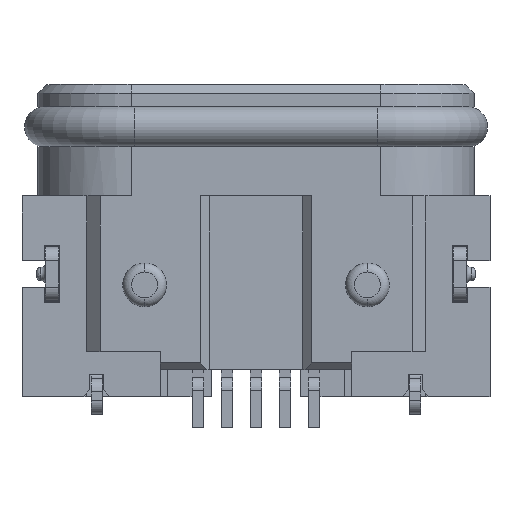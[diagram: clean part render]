
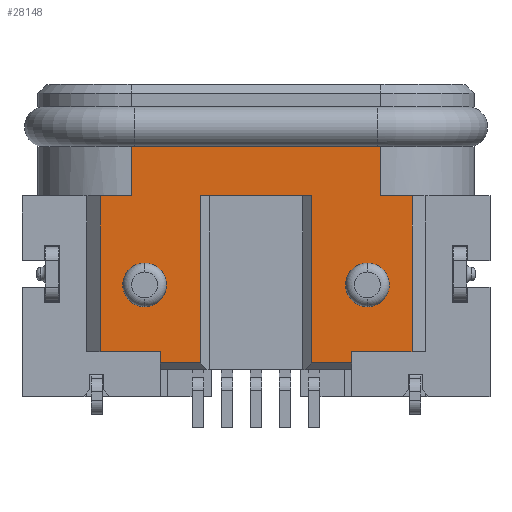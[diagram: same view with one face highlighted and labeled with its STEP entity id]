
A CAD part, top view. The second image highlights one B-rep face of the part: STEP entity #28148.
In plain terms, the highlighted planar face has unit normal (0, 0, 1).
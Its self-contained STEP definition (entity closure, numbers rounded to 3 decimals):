
#7948=DIRECTION('',(-1.,0.,0.));
#7949=VECTOR('',#7948,5.6);
#7950=CARTESIAN_POINT('',(2.575,4.69,2.435));
#7951=LINE('',#7950,#7949);
#7972=DIRECTION('',(0.,1.,0.));
#7973=VECTOR('',#7972,1.1);
#7974=CARTESIAN_POINT('',(-3.025,3.59,2.435));
#7975=LINE('',#7974,#7973);
#7976=CARTESIAN_POINT('',(2.275,1.59,2.435));
#7977=DIRECTION('',(0.,0.,1.));
#7978=DIRECTION('',(0.,-1.,0.));
#7979=AXIS2_PLACEMENT_3D('',#7976,#7977,#7978);
#7981=CARTESIAN_POINT('',(2.275,1.59,2.435));
#7982=DIRECTION('',(0.,0.,1.));
#7983=DIRECTION('',(0.,1.,0.));
#7984=AXIS2_PLACEMENT_3D('',#7981,#7982,#7983);
#7986=CARTESIAN_POINT('',(-2.725,1.59,2.435));
#7987=DIRECTION('',(0.,0.,1.));
#7988=DIRECTION('',(0.,-1.,0.));
#7989=AXIS2_PLACEMENT_3D('',#7986,#7987,#7988);
#7991=CARTESIAN_POINT('',(-2.725,1.59,2.435));
#7992=DIRECTION('',(0.,0.,1.));
#7993=DIRECTION('',(0.,1.,0.));
#7994=AXIS2_PLACEMENT_3D('',#7991,#7992,#7993);
#7996=DIRECTION('',(0.,1.,0.));
#7997=VECTOR('',#7996,1.1);
#7998=CARTESIAN_POINT('',(2.575,3.59,2.435));
#7999=LINE('',#7998,#7997);
#8448=DIRECTION('',(1.,0.,0.));
#8449=VECTOR('',#8448,1.35);
#8450=CARTESIAN_POINT('',(-3.725,0.09,
2.435));
#8451=LINE('',#8450,#8449);
#8460=DIRECTION('',(0.,-1.,0.));
#8461=VECTOR('',#8460,3.5);
#8462=CARTESIAN_POINT('',(-3.725,3.59,2.435));
#8463=LINE('',#8462,#8461);
#8473=DIRECTION('',(-1.,0.,0.));
#8474=VECTOR('',#8473,0.7);
#8475=CARTESIAN_POINT('',(-3.025,3.59,2.435));
#8476=LINE('',#8475,#8474);
#8494=DIRECTION('',(0.,-1.,0.));
#8495=VECTOR('',#8494,0.25);
#8496=CARTESIAN_POINT('',(-2.375,0.09,
2.435));
#8497=LINE('',#8496,#8495);
#8514=DIRECTION('',(0.,1.,0.));
#8515=VECTOR('',#8514,3.75);
#8516=CARTESIAN_POINT('',(-1.475,-0.16,
2.435));
#8517=LINE('',#8516,#8515);
#8518=DIRECTION('',(1.,0.,0.));
#8519=VECTOR('',#8518,2.5);
#8520=CARTESIAN_POINT('',(-1.475,3.59,2.435));
#8521=LINE('',#8520,#8519);
#8530=DIRECTION('',(0.,-1.,0.));
#8531=VECTOR('',#8530,3.75);
#8532=CARTESIAN_POINT('',(1.025,3.59,2.435));
#8533=LINE('',#8532,#8531);
#8558=DIRECTION('',(1.,0.,0.));
#8559=VECTOR('',#8558,0.9);
#8560=CARTESIAN_POINT('',(1.025,-0.16,
2.435));
#8561=LINE('',#8560,#8559);
#8562=DIRECTION('',(0.,1.,0.));
#8563=VECTOR('',#8562,0.25);
#8564=CARTESIAN_POINT('',(1.925,-0.16,
2.435));
#8565=LINE('',#8564,#8563);
#8582=DIRECTION('',(1.,0.,0.));
#8583=VECTOR('',#8582,1.35);
#8584=CARTESIAN_POINT('',(1.925,0.09,2.435));
#8585=LINE('',#8584,#8583);
#8586=DIRECTION('',(0.,1.,0.));
#8587=VECTOR('',#8586,3.5);
#8588=CARTESIAN_POINT('',(3.275,0.09,2.435));
#8589=LINE('',#8588,#8587);
#8594=DIRECTION('',(-1.,0.,0.));
#8595=VECTOR('',#8594,0.7);
#8596=CARTESIAN_POINT('',(3.275,3.59,2.435));
#8597=LINE('',#8596,#8595);
#9542=DIRECTION('',(1.,0.,0.));
#9543=VECTOR('',#9542,0.9);
#9544=CARTESIAN_POINT('',(-2.375,-0.16,
2.435));
#9545=LINE('',#9544,#9543);
#13128=CARTESIAN_POINT('',(-3.025,3.59,
2.435));
#13129=CARTESIAN_POINT('',(-3.025,4.69,
2.435));
#13130=VERTEX_POINT('',#13128);
#13131=VERTEX_POINT('',#13129);
#13136=CARTESIAN_POINT('',(1.925,0.09,
2.435));
#13137=CARTESIAN_POINT('',(3.275,0.09,
2.435));
#13138=VERTEX_POINT('',#13136);
#13139=VERTEX_POINT('',#13137);
#13140=CARTESIAN_POINT('',(1.925,-0.16,
2.435));
#13141=VERTEX_POINT('',#13140);
#13142=CARTESIAN_POINT('',(1.025,3.59,2.435));
#13143=CARTESIAN_POINT('',(1.025,-0.16,
2.435));
#13144=VERTEX_POINT('',#13142);
#13145=VERTEX_POINT('',#13143);
#13146=CARTESIAN_POINT('',(-1.475,3.59,
2.435));
#13147=VERTEX_POINT('',#13146);
#13148=CARTESIAN_POINT('',(-1.475,-0.16,
2.435));
#13149=VERTEX_POINT('',#13148);
#13150=CARTESIAN_POINT('',(-2.375,0.09,
2.435));
#13151=CARTESIAN_POINT('',(-2.375,-0.16,
2.435));
#13152=VERTEX_POINT('',#13150);
#13153=VERTEX_POINT('',#13151);
#13154=CARTESIAN_POINT('',(-3.725,0.09,
2.435));
#13155=VERTEX_POINT('',#13154);
#13156=CARTESIAN_POINT('',(2.275,1.1,2.435));
#13157=CARTESIAN_POINT('',(2.275,2.08,2.435));
#13158=VERTEX_POINT('',#13156);
#13159=VERTEX_POINT('',#13157);
#13160=CARTESIAN_POINT('',(-2.725,1.1,
2.435));
#13161=CARTESIAN_POINT('',(-2.725,2.08,
2.435));
#13162=VERTEX_POINT('',#13160);
#13163=VERTEX_POINT('',#13161);
#13164=CARTESIAN_POINT('',(2.575,3.59,2.435));
#13165=CARTESIAN_POINT('',(2.575,4.69,2.435));
#13166=VERTEX_POINT('',#13164);
#13167=VERTEX_POINT('',#13165);
#13378=CARTESIAN_POINT('',(-3.725,3.59,
2.435));
#13379=VERTEX_POINT('',#13378);
#13402=CARTESIAN_POINT('',(3.275,3.59,2.435));
#13403=VERTEX_POINT('',#13402);
#28099=CARTESIAN_POINT('',(-0.225,2.265,
2.435));
#28100=DIRECTION('',(0.,0.,1.));
#28101=DIRECTION('',(1.,0.,0.));
#28102=AXIS2_PLACEMENT_3D('',#28099,#28100,#28101);
#28103=PLANE('',#28102);
#28105=ORIENTED_EDGE('',*,*,#28104,.F.);
#28107=ORIENTED_EDGE('',*,*,#28106,.F.);
#28109=ORIENTED_EDGE('',*,*,#28108,.F.);
#28111=ORIENTED_EDGE('',*,*,#28110,.F.);
#28113=ORIENTED_EDGE('',*,*,#28112,.F.);
#28115=ORIENTED_EDGE('',*,*,#28114,.F.);
#28117=ORIENTED_EDGE('',*,*,#28116,.F.);
#28119=ORIENTED_EDGE('',*,*,#28118,.F.);
#28121=ORIENTED_EDGE('',*,*,#28120,.F.);
#28123=ORIENTED_EDGE('',*,*,#28122,.F.);
#28125=ORIENTED_EDGE('',*,*,#28124,.F.);
#28127=ORIENTED_EDGE('',*,*,#28126,.F.);
#28129=ORIENTED_EDGE('',*,*,#28128,.F.);
#28131=ORIENTED_EDGE('',*,*,#28130,.F.);
#28132=ORIENTED_EDGE('',*,*,#28081,.T.);
#28133=ORIENTED_EDGE('',*,*,#28063,.F.);
#28134=EDGE_LOOP('',(#28105,#28107,#28109,#28111,#28113,#28115,#28117,#28119,
#28121,#28123,#28125,#28127,#28129,#28131,#28132,#28133));
#28135=FACE_OUTER_BOUND('',#28134,.F.);
#28137=ORIENTED_EDGE('',*,*,#28136,.T.);
#28139=ORIENTED_EDGE('',*,*,#28138,.T.);
#28140=EDGE_LOOP('',(#28137,#28139));
#28141=FACE_BOUND('',#28140,.F.);
#28143=ORIENTED_EDGE('',*,*,#28142,.T.);
#28145=ORIENTED_EDGE('',*,*,#28144,.T.);
#28146=EDGE_LOOP('',(#28143,#28145));
#28147=FACE_BOUND('',#28146,.F.);
#7980=CIRCLE('',#7979,0.49);
#7985=CIRCLE('',#7984,0.49);
#7990=CIRCLE('',#7989,0.49);
#7995=CIRCLE('',#7994,0.49);
#28063=EDGE_CURVE('',#13167,#13131,#7951,.T.);
#28081=EDGE_CURVE('',#13130,#13131,#7975,.T.);
#28104=EDGE_CURVE('',#13166,#13167,#7999,.T.);
#28106=EDGE_CURVE('',#13403,#13166,#8597,.T.);
#28108=EDGE_CURVE('',#13139,#13403,#8589,.T.);
#28110=EDGE_CURVE('',#13138,#13139,#8585,.T.);
#28112=EDGE_CURVE('',#13141,#13138,#8565,.T.);
#28114=EDGE_CURVE('',#13145,#13141,#8561,.T.);
#28116=EDGE_CURVE('',#13144,#13145,#8533,.T.);
#28118=EDGE_CURVE('',#13147,#13144,#8521,.T.);
#28120=EDGE_CURVE('',#13149,#13147,#8517,.T.);
#28122=EDGE_CURVE('',#13153,#13149,#9545,.T.);
#28124=EDGE_CURVE('',#13152,#13153,#8497,.T.);
#28126=EDGE_CURVE('',#13155,#13152,#8451,.T.);
#28128=EDGE_CURVE('',#13379,#13155,#8463,.T.);
#28130=EDGE_CURVE('',#13130,#13379,#8476,.T.);
#28136=EDGE_CURVE('',#13158,#13159,#7980,.T.);
#28138=EDGE_CURVE('',#13159,#13158,#7985,.T.);
#28142=EDGE_CURVE('',#13162,#13163,#7990,.T.);
#28144=EDGE_CURVE('',#13163,#13162,#7995,.T.);
#28148=ADVANCED_FACE('',(#28135,#28141,#28147),#28103,.T.);
